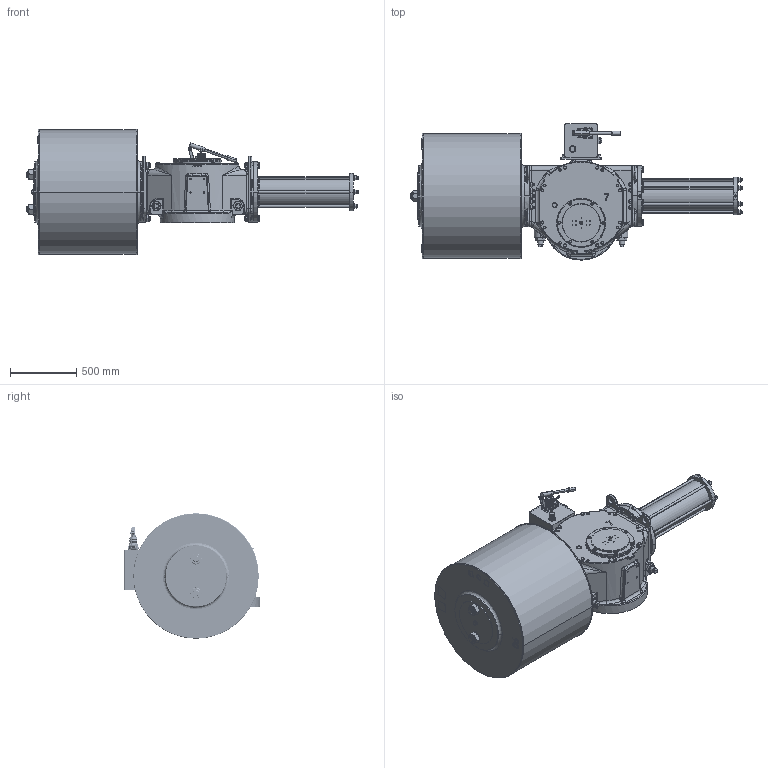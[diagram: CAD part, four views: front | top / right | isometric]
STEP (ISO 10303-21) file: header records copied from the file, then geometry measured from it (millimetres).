
FILE_DESCRIPTION (( 'STEP AP203' ), '1' );
FILE_NAME ('VTS7-900-MH.STEP', '2023-01-01T10:18:40', ( '' ), ( '' ), 'SwSTEP 2.0', 'SolidWorks 2020', '' );
FILE_SCHEMA (( 'CONFIG_CONTROL_DESIGN' ));
Length unit declared in the file: millimetre
Products named in the file (1): VTS7-900-MH
Bounding box: 2506 x 1027 x 947 mm (x, y, z)
Volume: 753655871.8 mm3; surface area: 9250136 mm2
Topology: 13 solids, 20 shells, 4078 faces, 10129 edges, 6244 vertices
Faces by surface type: plane 1485, cylinder 1352, cone 847, bspline 366, torus 28
Entity records: 149740 total; most frequent: CARTESIAN_POINT 55189, ORIENTED_EDGE 19926, DIRECTION 19811, EDGE_CURVE 9963, AXIS2_PLACEMENT_3D 7904, VERTEX_POINT 6244, EDGE_LOOP 4521, CIRCLE 4191
